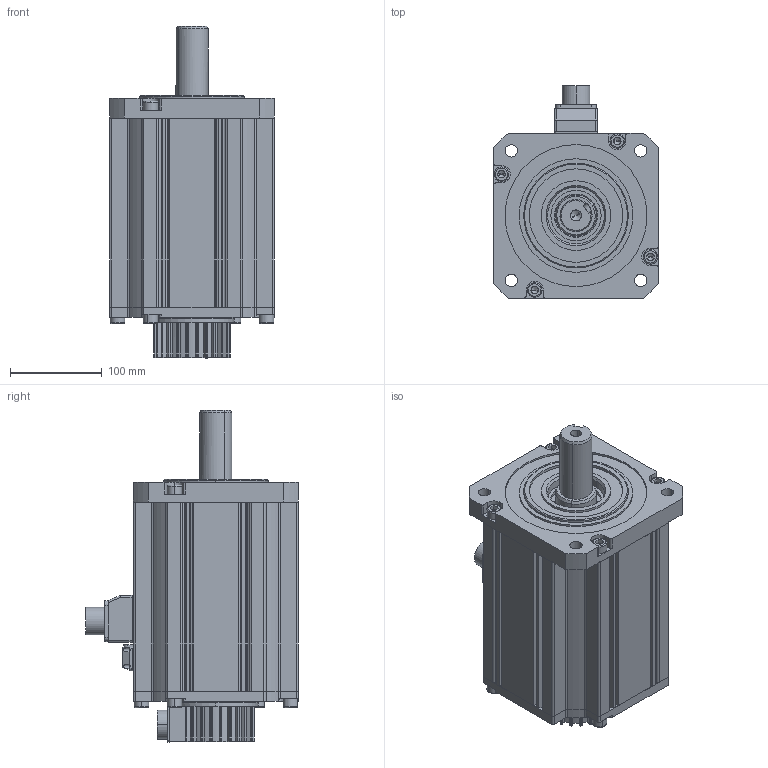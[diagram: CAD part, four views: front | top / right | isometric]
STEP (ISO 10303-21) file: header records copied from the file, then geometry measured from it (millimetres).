
FILE_DESCRIPTION((''),'2;1');
FILE_NAME('PH2-M18B215XXXX1A_ASM','2019-08-22T',('jiangfei6'),(''),'CREO PARAMETRIC BY PTC INC, 2015480','CREO PARAMETRIC BY PTC INC, 2015480','');
FILE_SCHEMA(('CONFIG_CONTROL_DESIGN'));
Length unit declared in the file: millimetre
Products named in the file (25): 180-__-60018; PRODUCT_33570; 180-__-59996; PRODUCT_33502; ______-001111; _____-001; PRODUCT_33400_ASM; __-__25; __-__24_1_; 180-____ASM; 180-_; PRODUCT_33298_ASM; DEEP_GROOVE_BALL_BEARINGS-59956; DEEP_GROOVE_BALL_BEARINGS-59953; ___-002; HEXAGON_SOCKET_HEAD_CAP_S-59944; HEXAGON_SOCKET_HEAD_CAP_S-59952; PRODUCT_33096_ASM; PRODUCT_33064_ASM; PRODUCT_33030; PRODUCT_33000; 130-__; HEXAGON_SOCKET_HEAD_CAP_S-59946; R180-4_5KW_ASM; PH2-M18B215XXXX1A_ASM
Assembly tree (31 placements, depth 6):
  PH2-M18B215XXXX1A_ASM
    R180-4_5KW_ASM
      PRODUCT_33064_ASM
        PRODUCT_33400_ASM
          180-__-60018
          PRODUCT_33570
          180-__-59996
          PRODUCT_33502
          ______-001111
          _____-001
        180-____ASM
          __-__25
          __-__24_1_
        PRODUCT_33096_ASM
          PRODUCT_33298_ASM
            180-_
          DEEP_GROOVE_BALL_BEARINGS-59956
          DEEP_GROOVE_BALL_BEARINGS-59953
          ___-002
          HEXAGON_SOCKET_HEAD_CAP_S-59944
          HEXAGON_SOCKET_HEAD_CAP_S-59952
      PRODUCT_33030
      PRODUCT_33000
      130-__
      HEXAGON_SOCKET_HEAD_CAP_S-59946  x8
Bounding box: 180 x 232.15 x 362.5 mm (x, y, z)
Volume: 1943293.3 mm3; surface area: 659059.9 mm2
Topology: 25 solids, 25 shells, 2098 faces, 5816 edges, 3556 vertices
Faces by surface type: cylinder 899, plane 605, sphere 224, cone 206, torus 150, bspline 14
Entity records: 64833 total; most frequent: CARTESIAN_POINT 14953, DIRECTION 10821, ORIENTED_EDGE 10312, EDGE_CURVE 5156, AXIS2_PLACEMENT_3D 4400, VERTEX_POINT 3325, CIRCLE 2405, EDGE_LOOP 2199
